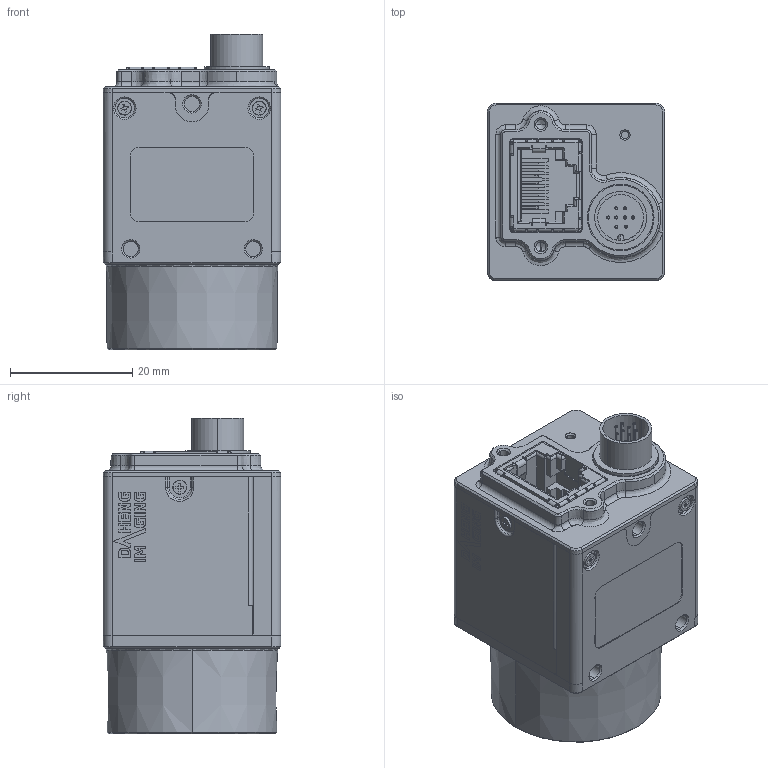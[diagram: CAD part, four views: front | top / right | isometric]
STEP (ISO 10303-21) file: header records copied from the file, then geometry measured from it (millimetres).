
FILE_DESCRIPTION (( 'STEP AP203' ), '1' );
FILE_NAME ('mer2_gx_user_a1.0.1.STEP', '2019-09-26T06:08:19', ( '' ), ( '' ), 'SwSTEP 2.0', 'SolidWorks 2016', '' );
FILE_SCHEMA (( 'CONFIG_CONTROL_DESIGN' ));
Length unit declared in the file: millimetre
Products named in the file (1): mer2_gx_user_a1.0.1
Bounding box: 29 x 29 x 51.6 mm (x, y, z)
Volume: 18677.9 mm3; surface area: 20260.9 mm2
Topology: 16 solids, 18 shells, 2328 faces, 5969 edges, 3741 vertices
Faces by surface type: plane 1103, cylinder 652, bspline 312, cone 206, torus 53, sphere 2
Entity records: 81116 total; most frequent: CARTESIAN_POINT 27352, ORIENTED_EDGE 11854, DIRECTION 10265, EDGE_CURVE 5927, VERTEX_POINT 3741, AXIS2_PLACEMENT_3D 3429, LINE 3407, VECTOR 3407
